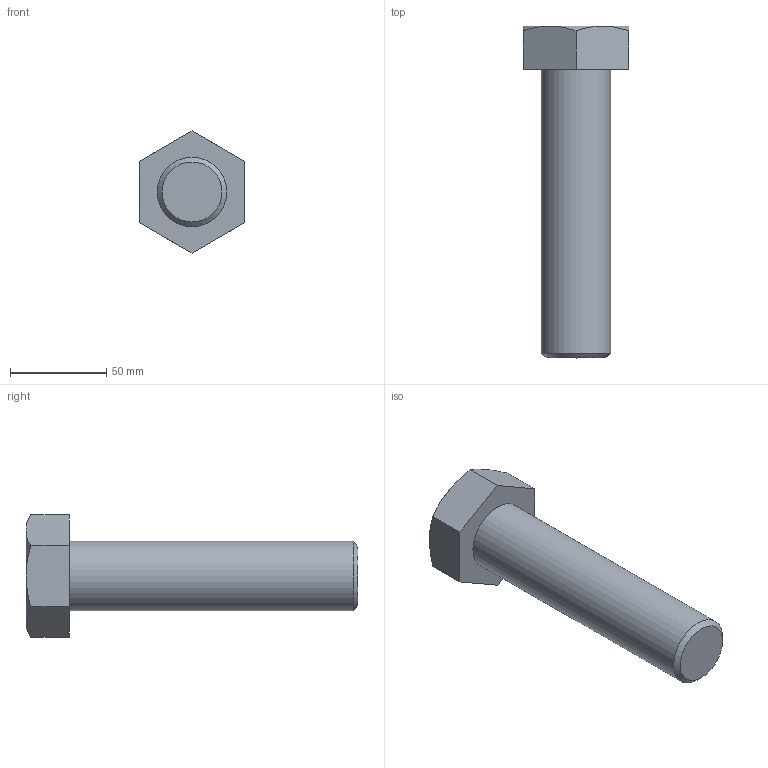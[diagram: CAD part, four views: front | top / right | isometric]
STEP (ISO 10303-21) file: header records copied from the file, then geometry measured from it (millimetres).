
FILE_DESCRIPTION(/* description */ (''),/* implementation_level */ '2;1');
FILE_NAME(/* name */ 'C:\Users\unitec\Documents\Inventor\各種小物\JIS\JIS B 1180 六角ボルト 等級C\hbc36\M36x150.stp',/* time_stamp */ '2015-02-13T14:56:42+09:00',/* author */ ('unitec'),/* organization */ (''),/* preprocessor_version */ 'ST-DEVELOPER v15.2',/* originating_system */ 'Autodesk Inventor 2014',/* authorisation */ '');
FILE_SCHEMA (('AUTOMOTIVE_DESIGN { 1 0 10303 214 3 1 1 }'));
Length unit declared in the file: millimetre
Products named in the file (1): M36x150
Bounding box: 55 x 172.5 x 63.51 mm (x, y, z)
Volume: 211120.6 mm3; surface area: 26198 mm2
Topology: 1 solids, 1 shells, 17 faces, 35 edges, 21 vertices
Faces by surface type: plane 9, cone 7, cylinder 1
Full cylindrical faces by diameter (mm): 36 x1
Entity records: 441 total; most frequent: CARTESIAN_POINT 96, ORIENTED_EDGE 66, DIRECTION 66, EDGE_CURVE 33, AXIS2_PLACEMENT_3D 27, VERTEX_POINT 21, EDGE_LOOP 20, ADVANCED_FACE 17
